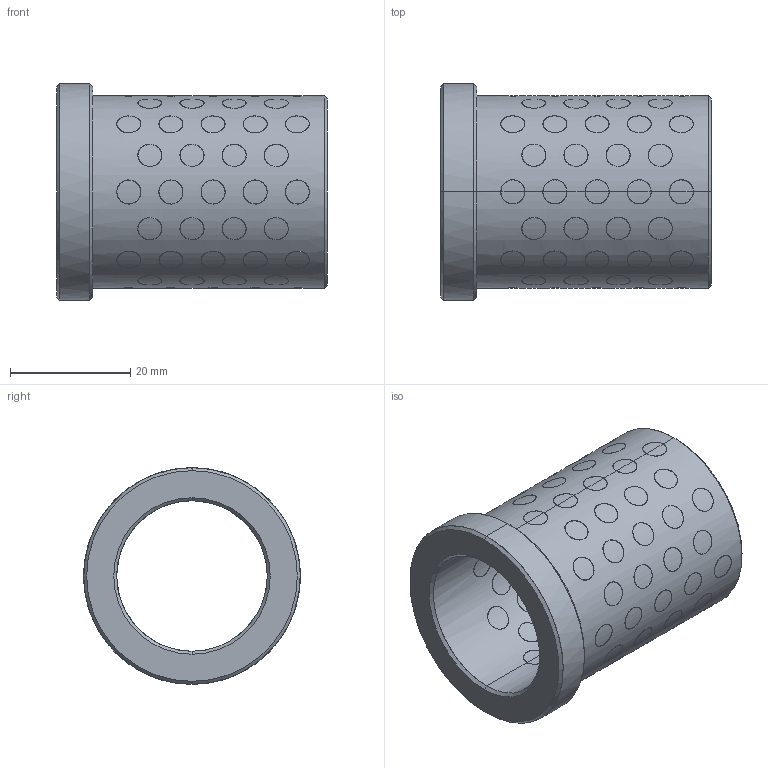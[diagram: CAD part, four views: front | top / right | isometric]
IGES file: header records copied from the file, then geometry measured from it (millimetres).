
Start section: START RECORD GO HERE.
Global section: file name: G4012545.igs; native system: DASSAULT SYSTEMES CATIA V5 R20 - www.3ds.com; preprocessor: CATIA Version 5 Release 20 ; author: r.borello; organization: CFTORINO; date: 20190624.143222; units: millimetre
Bounding box: 45 x 36 x 36 mm (x, y, z)
Surface area: 15325.8 mm2 (no closed solid volume)
Topology: 0 solids, 0 shells, 471 faces, 2044 edges, 2044 vertices
Faces by surface type: revolution 468, plane 3
